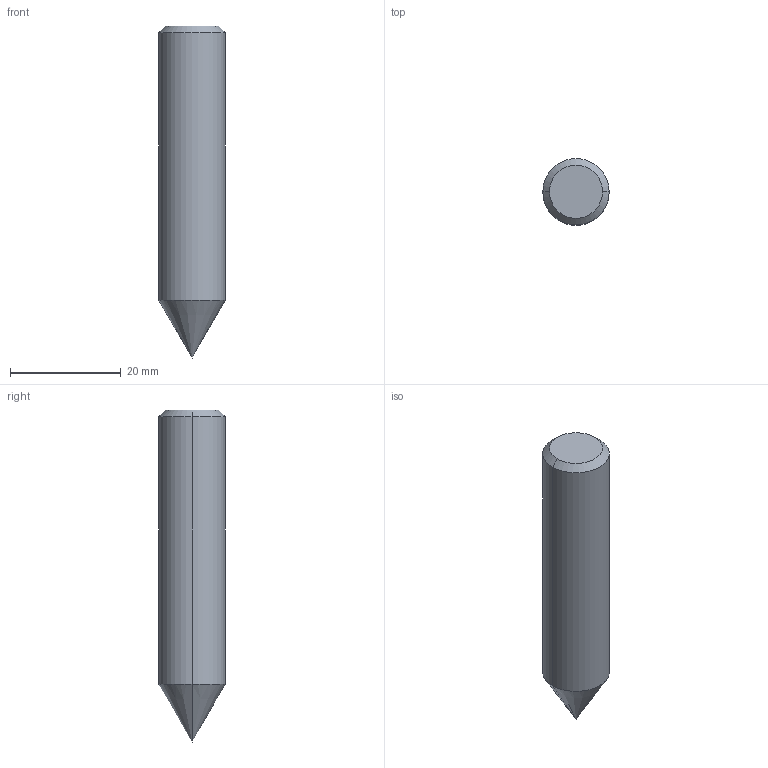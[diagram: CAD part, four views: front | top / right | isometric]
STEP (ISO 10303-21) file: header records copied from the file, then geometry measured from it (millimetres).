
FILE_DESCRIPTION (( 'STEP AP214' ), '1' );
FILE_NAME ('740.120.60_3D-model.step', '2022-02-19T09:43:24', ( '' ), ( '' ), 'SwSTEP 2.0', 'SolidWorks 2020', '' );
FILE_SCHEMA (( 'AUTOMOTIVE_DESIGN' ));
Length unit declared in the file: millimetre
Products named in the file (3): CUT-3D^Baugr59; NOCUT-3D^Baugr59; 740.120.60_3D-model
Assembly tree (2 placements, depth 2):
  740.120.60_3D-model
    CUT-3D^Baugr59
    NOCUT-3D^Baugr59
Bounding box: 12 x 12 x 60 mm (x, y, z)
Volume: 5976.9 mm3; surface area: 2407.3 mm2
Topology: 2 solids, 2 shells, 9 faces, 16 edges, 9 vertices
Faces by surface type: cone 4, plane 3, cylinder 2
Entity records: 330 total; most frequent: DIRECTION 56, CARTESIAN_POINT 40, ORIENTED_EDGE 28, AXIS2_PLACEMENT_3D 25, EDGE_CURVE 14, ADVANCED_FACE 9, EDGE_LOOP 9, FACE_OUTER_BOUND 9
